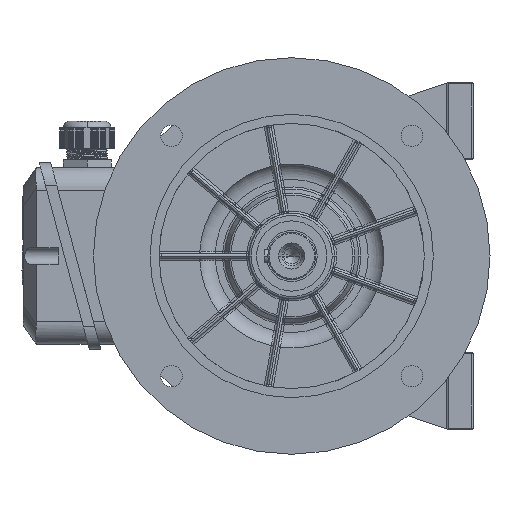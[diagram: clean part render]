
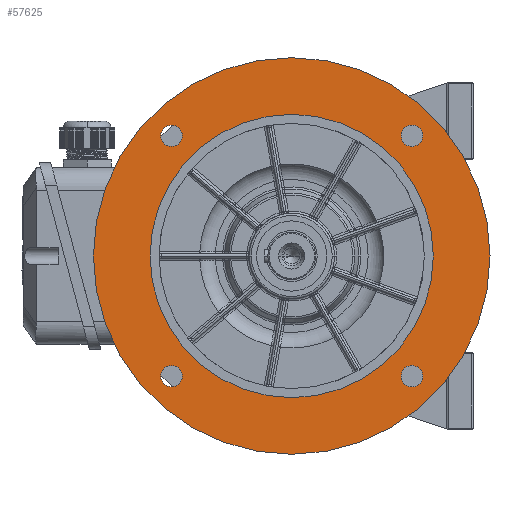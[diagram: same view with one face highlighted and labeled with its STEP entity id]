
A CAD part, left-side view. The second image highlights one B-rep face of the part: STEP entity #57625.
In plain terms, the highlighted planar face has unit normal (-1, 0, 0).
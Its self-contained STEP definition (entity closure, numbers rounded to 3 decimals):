
#1003 = EDGE_CURVE ( 'NONE', #49416, #50172, #65914, .T. ) ;
#1216 = DIRECTION ( 'NONE',  ( 0., 1., 0. ) ) ;
#1647 = VERTEX_POINT ( 'NONE', #59809 ) ;
#2441 = DIRECTION ( 'NONE',  ( 0., -1., 0. ) ) ;
#2721 = VERTEX_POINT ( 'NONE', #6423 ) ;
#3039 = EDGE_CURVE ( 'NONE', #66388, #2721, #57414, .T. ) ;
#3211 = ORIENTED_EDGE ( 'NONE', *, *, #1003, .T. ) ;
#3664 = VERTEX_POINT ( 'NONE', #4225 ) ;
#3888 = DIRECTION ( 'NONE',  ( 0., 1., 0. ) ) ;
#4225 = CARTESIAN_POINT ( 'NONE',  ( 110., -115.566, 106.066 ) ) ;
#4641 = DIRECTION ( 'NONE',  ( 1., 0., 0. ) ) ;
#5427 = ORIENTED_EDGE ( 'NONE', *, *, #23707, .F. ) ;
#6285 = ORIENTED_EDGE ( 'NONE', *, *, #60119, .F. ) ;
#6423 = CARTESIAN_POINT ( 'NONE',  ( 110., 96.566, -106.066 ) ) ;
#8156 = EDGE_LOOP ( 'NONE', ( #33033, #6285 ) ) ;
#8387 = AXIS2_PLACEMENT_3D ( 'NONE', #39018, #4641, #3888 ) ;
#8958 = DIRECTION ( 'NONE',  ( 1., 0., 0. ) ) ;
#9960 = ORIENTED_EDGE ( 'NONE', *, *, #40158, .F. ) ;
#10611 = EDGE_CURVE ( 'NONE', #3664, #1647, #31737, .T. ) ;
#11179 = CARTESIAN_POINT ( 'NONE',  ( 110., 96.566, 106.066 ) ) ;
#12067 = EDGE_CURVE ( 'NONE', #2721, #66388, #46206, .T. ) ;
#12544 = CARTESIAN_POINT ( 'NONE',  ( 110., 0., 0. ) ) ;
#13738 = DIRECTION ( 'NONE',  ( -1., 0., 0. ) ) ;
#13849 = CARTESIAN_POINT ( 'NONE',  ( 110., 106.066, -106.066 ) ) ;
#13975 = DIRECTION ( 'NONE',  ( 0., -1., 0. ) ) ;
#14546 = DIRECTION ( 'NONE',  ( -1., 0., 0. ) ) ;
#14924 = DIRECTION ( 'NONE',  ( -1., 0., 0. ) ) ;
#15749 = VERTEX_POINT ( 'NONE', #11179 ) ;
#16127 = EDGE_CURVE ( 'NONE', #50690, #63399, #35692, .T. ) ;
#16166 = AXIS2_PLACEMENT_3D ( 'NONE', #50027, #14924, #34116 ) ;
#17092 = DIRECTION ( 'NONE',  ( 1., 0., 0. ) ) ;
#17933 = VERTEX_POINT ( 'NONE', #72446 ) ;
#19103 = CARTESIAN_POINT ( 'NONE',  ( 110., -125., 0. ) ) ;
#19886 = CARTESIAN_POINT ( 'NONE',  ( 110., -115.566, -106.066 ) ) ;
#22210 = CIRCLE ( 'NONE', #30716, 175. ) ;
#22686 = DIRECTION ( 'NONE',  ( -1., 0., 0. ) ) ;
#22848 = AXIS2_PLACEMENT_3D ( 'NONE', #59513, #30760, #60013 ) ;
#22932 = DIRECTION ( 'NONE',  ( 0., -1., 0. ) ) ;
#23172 = ORIENTED_EDGE ( 'NONE', *, *, #68827, .F. ) ;
#23617 = CARTESIAN_POINT ( 'NONE',  ( 110., 125., 0. ) ) ;
#23644 = CARTESIAN_POINT ( 'NONE',  ( 110., -96.566, -106.066 ) ) ;
#23707 = EDGE_CURVE ( 'NONE', #17933, #15749, #75077, .T. ) ;
#24085 = AXIS2_PLACEMENT_3D ( 'NONE', #51866, #22686, #22932 ) ;
#25129 = DIRECTION ( 'NONE',  ( 1., 0., 0. ) ) ;
#25427 = DIRECTION ( 'NONE',  ( -1., 0., 0. ) ) ;
#26528 = ORIENTED_EDGE ( 'NONE', *, *, #50782, .T. ) ;
#30716 = AXIS2_PLACEMENT_3D ( 'NONE', #44079, #8958, #1216 ) ;
#30760 = DIRECTION ( 'NONE',  ( -1., 0., 0. ) ) ;
#30933 = AXIS2_PLACEMENT_3D ( 'NONE', #12544, #25129, #53600 ) ;
#30947 = ORIENTED_EDGE ( 'NONE', *, *, #16127, .F. ) ;
#31236 = FACE_BOUND ( 'NONE', #31316, .T. ) ;
#31316 = EDGE_LOOP ( 'NONE', ( #63929, #57460 ) ) ;
#31737 = CIRCLE ( 'NONE', #44583, 9.5 ) ;
#32799 = ORIENTED_EDGE ( 'NONE', *, *, #46775, .F. ) ;
#33033 = ORIENTED_EDGE ( 'NONE', *, *, #10611, .F. ) ;
#33786 = DIRECTION ( 'NONE',  ( -1., 0., 0. ) ) ;
#34056 = EDGE_LOOP ( 'NONE', ( #30947, #9960 ) ) ;
#34116 = DIRECTION ( 'NONE',  ( 0., -1., 0. ) ) ;
#34462 = EDGE_LOOP ( 'NONE', ( #54900, #23172 ) ) ;
#35692 = CIRCLE ( 'NONE', #70907, 9.5 ) ;
#35979 = DIRECTION ( 'NONE',  ( 0., 1., 0. ) ) ;
#39018 = CARTESIAN_POINT ( 'NONE',  ( 110., 0., 0. ) ) ;
#39212 = VERTEX_POINT ( 'NONE', #58132 ) ;
#40158 = EDGE_CURVE ( 'NONE', #63399, #50690, #50716, .T. ) ;
#41577 = CARTESIAN_POINT ( 'NONE',  ( 110., 106.066, -106.066 ) ) ;
#41845 = EDGE_LOOP ( 'NONE', ( #32799, #5427 ) ) ;
#42068 = AXIS2_PLACEMENT_3D ( 'NONE', #71193, #60365, #35979 ) ;
#42364 = PLANE ( 'NONE',  #42068 ) ;
#44079 = CARTESIAN_POINT ( 'NONE',  ( 110., 0., 0. ) ) ;
#44113 = AXIS2_PLACEMENT_3D ( 'NONE', #41577, #64425, #53402 ) ;
#44583 = AXIS2_PLACEMENT_3D ( 'NONE', #69207, #33786, #51465 ) ;
#46206 = CIRCLE ( 'NONE', #44113, 9.5 ) ;
#46326 = CIRCLE ( 'NONE', #49499, 9.5 ) ;
#46775 = EDGE_CURVE ( 'NONE', #15749, #17933, #46326, .T. ) ;
#47082 = CIRCLE ( 'NONE', #30933, 175. ) ;
#49416 = VERTEX_POINT ( 'NONE', #19103 ) ;
#49499 = AXIS2_PLACEMENT_3D ( 'NONE', #72805, #14546, #2441 ) ;
#50027 = CARTESIAN_POINT ( 'NONE',  ( 110., -106.066, 106.066 ) ) ;
#50172 = VERTEX_POINT ( 'NONE', #23617 ) ;
#50690 = VERTEX_POINT ( 'NONE', #19886 ) ;
#50716 = CIRCLE ( 'NONE', #22848, 9.5 ) ;
#50782 = EDGE_CURVE ( 'NONE', #50172, #49416, #57856, .T. ) ;
#51164 = AXIS2_PLACEMENT_3D ( 'NONE', #52973, #17092, #63985 ) ;
#51465 = DIRECTION ( 'NONE',  ( 0., -1., 0. ) ) ;
#51866 = CARTESIAN_POINT ( 'NONE',  ( 110., 106.066, 106.066 ) ) ;
#52973 = CARTESIAN_POINT ( 'NONE',  ( 110., 0., 0. ) ) ;
#53402 = DIRECTION ( 'NONE',  ( 0., -1., 0. ) ) ;
#53600 = DIRECTION ( 'NONE',  ( 0., 1., 0. ) ) ;
#54900 = ORIENTED_EDGE ( 'NONE', *, *, #63560, .F. ) ;
#55803 = CARTESIAN_POINT ( 'NONE',  ( 110., -175., 0. ) ) ;
#57414 = CIRCLE ( 'NONE', #67035, 9.5 ) ;
#57460 = ORIENTED_EDGE ( 'NONE', *, *, #3039, .F. ) ;
#57625 = ADVANCED_FACE ( 'NONE', ( #57866, #75316, #70713, #60584, #31236, #62412 ), #42364, .T. ) ;
#57856 = CIRCLE ( 'NONE', #8387, 125. ) ;
#57866 = FACE_OUTER_BOUND ( 'NONE', #34462, .T. ) ;
#58132 = CARTESIAN_POINT ( 'NONE',  ( 110., 175., 0. ) ) ;
#58520 = EDGE_LOOP ( 'NONE', ( #26528, #3211 ) ) ;
#59513 = CARTESIAN_POINT ( 'NONE',  ( 110., -106.066, -106.066 ) ) ;
#59809 = CARTESIAN_POINT ( 'NONE',  ( 110., -96.566, 106.066 ) ) ;
#60013 = DIRECTION ( 'NONE',  ( 0., -1., 0. ) ) ;
#60119 = EDGE_CURVE ( 'NONE', #1647, #3664, #71378, .T. ) ;
#60365 = DIRECTION ( 'NONE',  ( -1., 0., 0. ) ) ;
#60584 = FACE_BOUND ( 'NONE', #41845, .T. ) ;
#60655 = VERTEX_POINT ( 'NONE', #55803 ) ;
#62412 = FACE_BOUND ( 'NONE', #58520, .T. ) ;
#63399 = VERTEX_POINT ( 'NONE', #23644 ) ;
#63560 = EDGE_CURVE ( 'NONE', #39212, #60655, #22210, .T. ) ;
#63929 = ORIENTED_EDGE ( 'NONE', *, *, #12067, .F. ) ;
#63985 = DIRECTION ( 'NONE',  ( 0., 1., 0. ) ) ;
#64425 = DIRECTION ( 'NONE',  ( -1., 0., 0. ) ) ;
#65914 = CIRCLE ( 'NONE', #51164, 125. ) ;
#66388 = VERTEX_POINT ( 'NONE', #69947 ) ;
#67035 = AXIS2_PLACEMENT_3D ( 'NONE', #13849, #25427, #72367 ) ;
#67616 = CARTESIAN_POINT ( 'NONE',  ( 110., -106.066, -106.066 ) ) ;
#68827 = EDGE_CURVE ( 'NONE', #60655, #39212, #47082, .T. ) ;
#69207 = CARTESIAN_POINT ( 'NONE',  ( 110., -106.066, 106.066 ) ) ;
#69947 = CARTESIAN_POINT ( 'NONE',  ( 110., 115.566, -106.066 ) ) ;
#70713 = FACE_BOUND ( 'NONE', #8156, .T. ) ;
#70907 = AXIS2_PLACEMENT_3D ( 'NONE', #67616, #13738, #13975 ) ;
#71193 = CARTESIAN_POINT ( 'NONE',  ( 110., 175., 0. ) ) ;
#71378 = CIRCLE ( 'NONE', #16166, 9.5 ) ;
#72367 = DIRECTION ( 'NONE',  ( 0., -1., 0. ) ) ;
#72446 = CARTESIAN_POINT ( 'NONE',  ( 110., 115.566, 106.066 ) ) ;
#72805 = CARTESIAN_POINT ( 'NONE',  ( 110., 106.066, 106.066 ) ) ;
#75077 = CIRCLE ( 'NONE', #24085, 9.5 ) ;
#75316 = FACE_BOUND ( 'NONE', #34056, .T. ) ;
